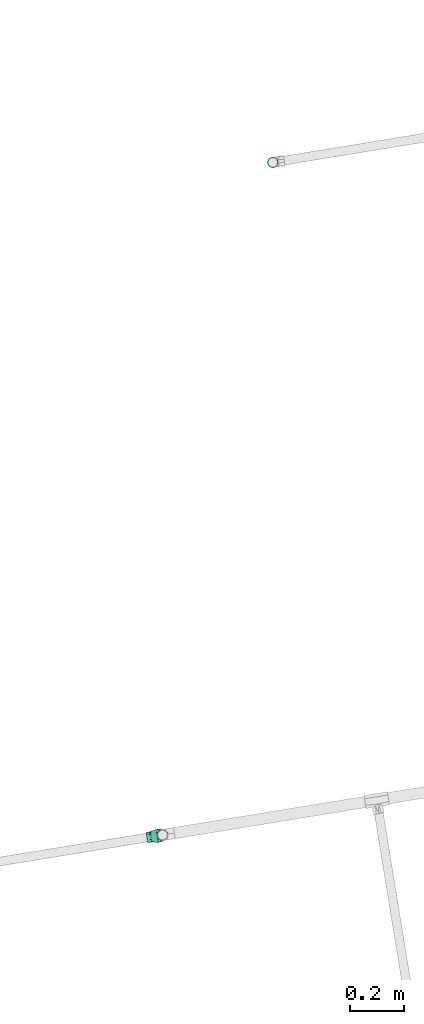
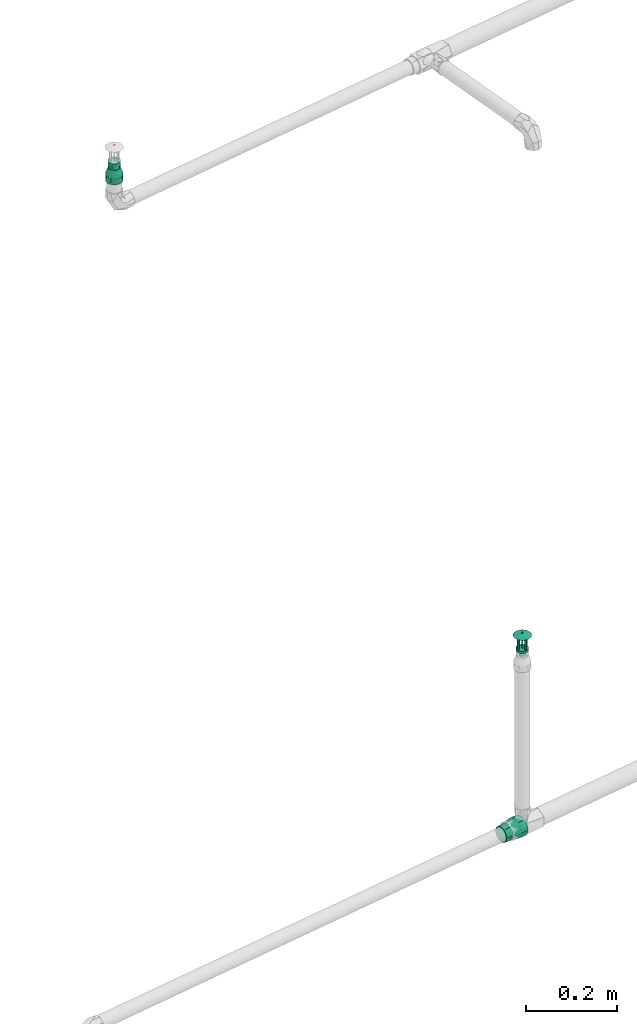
# One storey, part 34 of 46: 2 flow fittings, 1 flow terminal.
"""IFC2X3 building model written with IfcOpenShell, lengths in millimetres."""

from ifc_helpers import new_model, entity, si_unit, converted_unit, derived_unit, direction, frame, origin, origin_with_axes, place, context, subcontext, project, spatial, faceted_brep, source, transform, mapped, material, type_object, element, save


model = new_model("IFC2X3")

# Units and contexts
model_context = context("Model", 3, precision=0.01, world=origin(), true_north=direction((6.12323399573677e-17, 1.0)))
plan_context = context("Plan", 3, precision=1e-05, world=origin_with_axes())
body_context = subcontext(model_context, "Body", "Model", "MODEL_VIEW")
ifc_project = project(units=[converted_unit("PLANEANGLEUNIT", "DEGREE", entity("IfcPositiveLengthMeasure", 0.0174532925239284), si_unit("PLANEANGLEUNIT", "RADIAN"), dimensions=[0, 0, 0, 0, 0, 0, 0]), si_unit("AREAUNIT", "SQUARE_METRE"), si_unit("LENGTHUNIT", "METRE", prefix="MILLI"), si_unit("MASSUNIT", "GRAM", prefix="KILO"), si_unit("POWERUNIT", "WATT"), si_unit("PRESSUREUNIT", "PASCAL", prefix="KILO"), si_unit("FORCEUNIT", "NEWTON", prefix="KILO"), si_unit("ELECTRICVOLTAGEUNIT", "VOLT"), si_unit("ELECTRICCURRENTUNIT", "AMPERE"), si_unit("THERMODYNAMICTEMPERATUREUNIT", "DEGREE_CELSIUS"), si_unit("TIMEUNIT", "SECOND"), si_unit("VOLUMEUNIT", "CUBIC_METRE"), derived_unit("LINEARVELOCITYUNIT", [(si_unit("LENGTHUNIT", "METRE"), 1), (si_unit("TIMEUNIT", "SECOND"), -1)]), derived_unit("VOLUMETRICFLOWRATEUNIT", [(si_unit("VOLUMEUNIT", "CUBIC_METRE"), 1), (si_unit("TIMEUNIT", "SECOND"), -1)]), derived_unit("THERMALTRANSMITTANCEUNIT", [(si_unit("POWERUNIT", "WATT"), 1), (si_unit("THERMODYNAMICTEMPERATUREUNIT", "KELVIN"), -1), (si_unit("AREAUNIT", "SQUARE_METRE"), -1)]), derived_unit("SOUNDPRESSUREUNIT", [(si_unit("PRESSUREUNIT", "PASCAL"), 1)])], contexts=[model_context, plan_context])

# Site, building, storey
site_placement = place(None, frame((-3.09682673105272e-06, 1.93776733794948e-05, 0.0), z_axis=(0.0, 0.0, 1.0), x_axis=(-0.160806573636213, 0.986985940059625, 0.0)))
site = spatial("IfcSite", under=ifc_project, at=site_placement, Name="Default", CompositionType="ELEMENT")
building_placement = place(site_placement, frame((0.0, 0.0, 0.0), z_axis=(0.0, 0.0, 1.0), x_axis=(1.0, -2.77555756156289e-17, 0.0)))
building = spatial("IfcBuilding", under=site, at=building_placement, Name="Bygning (endres i Project Information)", CompositionType="ELEMENT")
storey_placement = place(building_placement, frame((0.0, 0.0, 51360.0000000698), z_axis=(0.0, 0.0, 1.0), x_axis=(1.0, -2.77555756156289e-17, 0.0)))
storey = spatial("IfcBuildingStorey", under=building, at=storey_placement, Name="H01-Nivå D+0,36", CompositionType="ELEMENT", Elevation=51360.0000000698)

# Flow fittings
ifc_material = material(Name="3320.001")
pipe_fitting_type_1 = type_object("IfcPipeFittingType", Name="RS_53_PIF_UN_Reducing-Socket-EN10241_MC_gen:RS_53_PIF_UN_Reducing-Socket-EN10241_MC_gen", PredefinedType="NOTDEFINED", material=ifc_material)
shared_shape_1 = source(origin(), body_context, "Body", "Brep", [
    faceted_brep([(0.0, 3.49405710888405, 13.0399986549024), (0.0, 6.75000000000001, 11.6913429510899), (0.0, 9.5459415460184, 9.54594154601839), (0.0, 11.6913429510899, 6.74999999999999), (0.0, 13.0399986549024, 3.49405710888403), (0.0, 13.5, 0.0), (0.0, 13.0399986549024, -3.49405710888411), (0.0, 11.6913429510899, -6.75000000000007), (0.0, 9.54594154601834, -9.54594154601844), (0.0, 6.74999999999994, -11.69134295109), (0.0, 3.49405710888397, -13.0399986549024), (0.0, 0.0, -13.5), (0.0, -3.49405710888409, -13.0399986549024), (0.0, -6.75000000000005, -11.6913429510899), (0.0, -9.54594154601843, -9.54594154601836), (0.0, -11.6913429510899, -6.74999999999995), (0.0, -13.0399986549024, -3.49405710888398), (0.0, -13.5, 0.0), (0.0, -13.0399986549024, 3.49405710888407), (0.0, -11.6913429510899, 6.75000000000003), (0.0, -9.54594154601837, 9.54594154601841), (0.0, -6.74999999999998, 11.6913429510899), (0.0, -3.49405710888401, 13.0399986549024), (0.0, 0.0, 13.5), (17.0, -4.54589529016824, -12.4935366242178), (17.0, -10.3411162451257, -8.67820919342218), (17.0, -11.5134189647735, -6.64791735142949), (17.0, -12.6857216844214, -4.61762550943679), (17.0, -6.74902240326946, -11.6919073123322), (17.0, -8.54506932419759, -10.1850582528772), (17.0, -13.0928608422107, -2.30881275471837), (17.0, -13.5, 0.0), (17.0, -2.34276817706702, -13.2951659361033), (17.0, 2.34610313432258, -13.2945778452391), (17.0, 0.00166747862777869, -13.2948718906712), (17.0, 8.54762393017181, -10.1829144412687), (17.0, 4.5490290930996, -12.4923959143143), (17.0, 6.75195505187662, -11.6902139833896), (17.0, 12.6868795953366, -4.61444320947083), (17.0, 11.5150862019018, -6.6450290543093), (17.0, 10.343292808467, -8.67561489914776), (17.0, 13.5, 0.0), (17.0, 10.3432928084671, 8.67561489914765), (17.0, 11.5150862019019, 6.64502905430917), (17.0, 12.6868795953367, 4.61444320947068), (17.0, 6.75195505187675, 11.6902139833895), (17.0, 8.54762393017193, 10.1829144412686), (17.0, 2.34610313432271, 13.2945778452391), (17.0, 4.54902909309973, 12.4923959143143), (17.0, -2.3427681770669, 13.2951659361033), (17.0, 0.00166747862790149, 13.2948718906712), (17.0, -12.6857216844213, 4.61762550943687), (17.0, -8.5450693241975, 10.1850582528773), (17.0, -13.0928608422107, 2.30881275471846), (17.0, -11.5134189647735, 6.64791735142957), (17.0, -10.3411162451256, 8.67820919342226), (17.0, -4.54589529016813, 12.4935366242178), (17.0, -6.74902240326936, 11.6919073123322), (34.0, -18.5588149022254, -6.75521201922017), (34.0, 18.5598439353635, -6.75238425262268), (34.0, -9.87413131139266, -17.104503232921), (34.0, -3.42823440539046, -19.4501853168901), (34.0, 0.00148173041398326, -19.4499240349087), (34.0, -6.65118285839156, -18.2773442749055), (34.0, -12.5015396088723, -14.9000353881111), (34.0, -15.1289479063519, -12.6955675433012), (34.0, -16.8438814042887, -9.72538978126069), (34.0, -19.1648351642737, -3.3184704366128), (34.0, 9.87673730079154, -17.1029985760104), (34.0, 15.1308820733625, -12.6932622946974), (34.0, 3.43119786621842, -19.4496627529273), (34.0, 6.65396758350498, -18.2763306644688), (34.0, 16.845363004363, -9.72282327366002), (34.0, 12.503809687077, -14.8981304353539), (34.0, 19.7500000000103, 0.0), (34.0, -19.7499999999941, 0.0), (34.0, -19.1544074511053, 3.37760600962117), (34.0, -6.65118285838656, 18.2773442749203), (34.0, -12.5015396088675, 14.9000353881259), (34.0, 3.43119786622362, 19.4496627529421), (34.0, 6.65396758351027, 18.2763306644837), (34.0, 9.87673730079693, 17.1029985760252), (34.0, 12.5038096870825, 14.8981304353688), (34.0, 15.1308820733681, 12.6932622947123), (34.0, 16.8453630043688, 9.72282327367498), (34.0, 18.5598439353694, 6.75238425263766), (34.0, -16.843881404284, 9.7253897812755), (34.0, -18.5588149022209, 6.75521201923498), (34.0, -3.42823440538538, 19.4501853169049), (34.0, 0.00148173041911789, 19.4499240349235), (34.0, -9.87413131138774, 17.1045032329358), (34.0, -15.1289479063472, 12.695567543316), (51.0, 5.11167614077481, -19.0770350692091), (51.0, 9.87500000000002, -17.1040017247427), (51.0, 13.9653589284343, -13.9653589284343), (51.0, 17.1040017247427, -9.87499999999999), (51.0, 19.0770350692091, -5.11167614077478), (51.0, 19.75, 0.0), (51.0, 19.0770350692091, 5.1116761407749), (51.0, 17.1040017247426, 9.8750000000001), (51.0, 13.9653589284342, 13.9653589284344), (51.0, 9.87499999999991, 17.1040017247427), (51.0, 5.11167614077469, 19.0770350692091), (51.0, 0.0, 19.75), (51.0, -5.11167614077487, 19.0770350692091), (51.0, -9.87500000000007, 17.1040017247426), (51.0, -13.9653589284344, 13.9653589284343), (51.0, -17.1040017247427, 9.87499999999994), (51.0, -19.0770350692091, 5.11167614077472), (51.0, -19.75, 0.0), (51.0, -19.0770350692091, -5.11167614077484), (51.0, -17.1040017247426, -9.87500000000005), (51.0, -13.9653589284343, -13.9653589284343), (51.0, -9.87499999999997, -17.1040017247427), (51.0, -5.11167614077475, -19.0770350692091), (51.0, 0.0, -19.75)], [[[0, 1, 2, 3, 4, 5, 6, 7, 8, 9, 10, 11, 12, 13, 14, 15, 16, 17, 18, 19, 20, 21, 22, 23]], [[24, 13, 12]], [[15, 14, 25]], [[15, 25, 26, 27]], [[28, 29, 13]], [[16, 27, 30]], [[30, 31, 17]], [[30, 17, 16]], [[12, 32, 24]], [[25, 14, 29]], [[11, 33, 34, 32]], [[35, 9, 8]], [[13, 29, 14]], [[24, 28, 13]], [[33, 11, 10]], [[36, 9, 37]], [[7, 38, 39, 40]], [[9, 36, 10]], [[7, 6, 38]], [[8, 40, 35]], [[33, 10, 36]], [[11, 32, 12]], [[7, 40, 8]], [[6, 41, 38]], [[15, 27, 16]], [[6, 5, 41]], [[35, 37, 9]], [[41, 5, 4]], [[3, 2, 42]], [[3, 42, 43, 44]], [[45, 46, 1]], [[44, 41, 4]], [[0, 47, 48]], [[42, 2, 46]], [[23, 49, 50, 47]], [[1, 46, 2]], [[48, 1, 0]], [[48, 45, 1]], [[3, 44, 4]], [[22, 49, 23]], [[19, 18, 51]], [[52, 21, 20]], [[17, 53, 18]], [[19, 51, 54, 55]], [[17, 31, 53]], [[56, 49, 22]], [[21, 57, 56]], [[19, 55, 20]], [[21, 56, 22]], [[20, 55, 52]], [[23, 47, 0]], [[53, 51, 18]], [[52, 57, 21]], [[58, 30, 27]], [[38, 59, 39]], [[28, 60, 29]], [[61, 32, 62]], [[63, 60, 28]], [[64, 65, 25]], [[64, 25, 29]], [[66, 58, 27]], [[66, 27, 26]], [[67, 31, 30]], [[26, 65, 66]], [[62, 32, 34]], [[25, 65, 26]], [[37, 68, 36]], [[29, 60, 64]], [[40, 69, 35]], [[34, 33, 70]], [[71, 70, 33]], [[71, 33, 36]], [[34, 70, 62]], [[72, 69, 40]], [[73, 68, 37]], [[74, 38, 41]], [[31, 67, 75]], [[39, 59, 72]], [[32, 61, 24]], [[35, 69, 73]], [[74, 59, 38]], [[58, 67, 30]], [[63, 28, 24]], [[24, 61, 63]], [[73, 37, 35]], [[36, 68, 71]], [[72, 40, 39]], [[41, 44, 74]], [[31, 76, 53]], [[57, 77, 56]], [[55, 78, 52]], [[47, 79, 80]], [[45, 81, 82]], [[46, 83, 42]], [[42, 83, 84]], [[43, 85, 44]], [[74, 44, 85]], [[46, 82, 83]], [[84, 85, 43]], [[51, 86, 54]], [[87, 51, 53]], [[81, 48, 80]], [[48, 81, 45]], [[49, 88, 89]], [[77, 57, 90]], [[56, 88, 49]], [[50, 79, 47]], [[86, 51, 87]], [[78, 55, 91]], [[75, 76, 31]], [[47, 80, 48]], [[77, 88, 56]], [[49, 89, 50]], [[86, 91, 54]], [[53, 76, 87]], [[45, 82, 46]], [[90, 52, 78]], [[42, 84, 43]], [[52, 90, 57]], [[50, 89, 79]], [[54, 91, 55]], [[92, 93, 94, 95, 96, 97, 98, 99, 100, 101, 102, 103, 104, 105, 106, 107, 108, 109, 110, 111, 112, 113, 114, 115]], [[74, 97, 96]], [[95, 94, 69]], [[95, 69, 72, 59]], [[68, 73, 93]], [[59, 74, 96]], [[92, 70, 71]], [[69, 94, 73]], [[115, 61, 62, 70]], [[93, 73, 94]], [[61, 115, 114]], [[111, 65, 112]], [[63, 113, 60]], [[95, 59, 96]], [[71, 68, 93]], [[64, 60, 113]], [[109, 75, 67]], [[113, 63, 114]], [[112, 65, 64]], [[61, 114, 63]], [[71, 93, 92]], [[109, 67, 110]], [[58, 111, 110]], [[110, 67, 58]], [[64, 113, 112]], [[66, 65, 111, 58]], [[115, 70, 92]], [[77, 105, 104]], [[107, 106, 91]], [[107, 91, 86, 87]], [[90, 78, 105]], [[108, 87, 76]], [[76, 109, 108]], [[107, 87, 108]], [[104, 88, 77]], [[91, 106, 78]], [[103, 79, 89, 88]], [[77, 90, 105]], [[105, 78, 106]], [[76, 75, 109]], [[79, 103, 102]], [[80, 101, 81]], [[99, 85, 84, 83]], [[101, 80, 102]], [[99, 98, 85]], [[100, 83, 82]], [[79, 102, 80]], [[99, 83, 100]], [[82, 81, 101]], [[98, 74, 85]], [[98, 97, 74]], [[103, 88, 104]], [[82, 101, 100]]]),
])
flow_fitting_1_placement = place(storey_placement, frame((1008686.77221849, -348978.631006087, 3418.99999993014), z_axis=(2.77555756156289e-17, 1.0, 0.0), x_axis=(0.0, 0.0, -1.0)))
element("IfcFlowFitting", 1, at=flow_fitting_1_placement, inside=storey, type_object=pipe_fitting_type_1, material=ifc_material, Name="RS_53_PIF_UN_Reducing-Socket-EN10241_MC_gen:RS_53_PIF_UN_Reducing-Socket-EN10241_MC_gen", ObjectType="RS_53_PIF_UN_Reducing-Socket-EN10241_MC_gen:RS_53_PIF_UN_Reducing-Socket-EN10241_MC_gen", context=body_context, shape_type="MappedRepresentation", body=[
    mapped(shared_shape_1, transform((0.0, 0.0, 0.0), scale=1.0)),
])
pipe_fitting_type_2 = type_object("IfcPipeFittingType", Name="RS_53_PIF_UN_Reducing-Socket-EN10241_MC_gen:RS_53_PIF_UN_Reducing-Socket-EN10241_MC_gen", PredefinedType="NOTDEFINED", material=ifc_material)
shared_shape_2 = source(origin(), body_context, "Body", "Brep", [
    faceted_brep([(0.0, -12.25, 21.2176223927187), (0.0, -6.34106660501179, 23.6651827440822), (0.0, 0.0, 24.5), (0.0, 6.34106660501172, 23.6651827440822), (0.0, 12.25, 21.2176223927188), (0.0, 17.3241161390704, 17.3241161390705), (0.0, 21.2176223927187, 12.2500000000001), (0.0, 23.6651827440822, 6.34106660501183), (0.0, 24.5, 0.0), (0.0, 23.6651827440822, -6.34106660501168), (0.0, 21.2176223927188, -12.2499999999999), (0.0, 17.3241161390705, -17.3241161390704), (0.0, 12.2500000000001, -21.2176223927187), (0.0, 6.34106660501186, -23.6651827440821), (0.0, 0.0, -24.5), (0.0, -6.34106660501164, -23.6651827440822), (0.0, -12.2499999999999, -21.2176223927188), (0.0, -17.3241161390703, -17.3241161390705), (0.0, -21.2176223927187, -12.2500000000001), (0.0, -23.6651827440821, -6.34106660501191), (0.0, -24.5, 0.0), (0.0, -23.6651827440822, 6.34106660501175), (0.0, -21.2176223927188, 12.25), (0.0, -17.3241161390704, 17.3241161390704), (18.6666666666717, 8.25137606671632, -22.6729794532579), (18.6666666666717, 18.7677686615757, -15.7486780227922), (18.6666666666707, 20.8950763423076, -12.0642027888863), (18.6666666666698, 23.0223840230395, -8.37972755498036), (18.6666666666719, 15.5085607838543, -18.4833370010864), (18.6666666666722, 12.2493529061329, -21.2179959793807), (18.6666666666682, 23.7611920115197, -4.18986377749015), (18.6666666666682, 23.7125607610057, -4.46565710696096), (18.6666666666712, 4.25339922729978, -24.1279629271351), (18.6666666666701, -0.00110376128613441, -24.1277682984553), (18.6666666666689, -4.25560674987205, -24.1275736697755), (18.6666666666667, 24.5, 0.0), (18.6666666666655, -12.2512941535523, -21.2168751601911), (18.6666666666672, -8.25345045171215, -22.6722244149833), (18.6666666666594, -20.8961800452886, -12.062290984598), (18.6666666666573, -23.0231506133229, -8.37762113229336), (18.6666666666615, -18.7692094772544, -15.7469608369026), (18.6666666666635, -15.5102518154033, -18.4819179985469), (18.6666666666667, -24.5, 0.0), (18.6666666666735, -18.7692094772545, 15.7469608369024), (18.666666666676, -20.8961800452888, 12.0622909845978), (18.6666666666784, -23.023150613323, 8.3776211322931), (18.6666666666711, -15.5102518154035, 18.4819179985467), (18.6666666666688, -12.2512941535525, 21.216875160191), (18.6666666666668, -8.25345045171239, 22.6722244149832), (18.6666666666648, -4.25560674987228, 24.1275736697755), (18.6666666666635, -0.00110376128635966, 24.1277682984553), (18.6666666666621, 4.25339922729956, 24.1279629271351), (18.6666666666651, 23.7611920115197, 4.1898637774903), (18.666666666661, 12.2493529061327, 21.2179959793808), (18.6666666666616, 8.25137606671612, 22.672979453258), (18.6666666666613, 15.5085607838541, 18.4833370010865), (18.6666666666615, 18.7677686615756, 15.7486780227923), (18.6666666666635, 23.0223840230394, 8.37972755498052), (18.6666666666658, 23.7125607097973, 4.46565739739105), (18.6666666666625, 20.8950763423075, 12.0642027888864), (37.3333333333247, -18.5595959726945, -6.75306577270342), (37.3333333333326, -19.750000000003, 0.0), (37.3333333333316, -9.87626627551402, -17.1032705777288), (37.3333333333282, -15.1304742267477, -12.6937484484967), (37.3333333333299, -12.5033702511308, -14.8985095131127), (37.3333333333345, -3.43075149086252, -19.4497414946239), (37.333333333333, -6.65350888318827, -18.2765060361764), (37.3333333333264, -16.8450350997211, -9.72340711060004), (37.3333333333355, -0.00107998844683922, -19.4499319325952), (37.3333333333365, 3.42859151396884, -19.4501223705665), (37.3333333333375, 9.87436684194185, -17.1043672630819), (37.333333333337, 6.65147917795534, -18.2772448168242), (37.3333333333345, 19.1544229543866, -3.37756341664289), (37.3333333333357, 18.558845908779, -6.75512683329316), (37.3333333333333, 19.7499999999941, 0.0), (37.3333333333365, 16.8439551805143, -9.72527774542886), (37.3333333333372, 15.1290644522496, -12.6954286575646), (37.3333333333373, 12.5017156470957, -14.8998979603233), (37.3333333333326, 19.1544229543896, 3.37756341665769), (37.3333333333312, 18.5588459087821, 6.755126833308), (37.3333333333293, 15.1290644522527, 12.6954286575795), (37.3333333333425, -16.8450350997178, 9.72340711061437), (37.3333333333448, -18.559595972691, 6.75306577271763), (37.3333333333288, 9.87436684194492, 17.104367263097), (37.3333333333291, 12.5017156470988, 14.8998979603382), (37.3333333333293, 6.65147917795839, 18.2772448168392), (37.3333333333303, 16.8439551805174, 9.72527774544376), (37.3333333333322, -3.43075149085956, 19.4497414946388), (37.333333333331, -0.00107998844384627, 19.4499319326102), (37.3333333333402, -15.1304742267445, 12.6937484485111), (37.333333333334, -6.65350888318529, 18.2765060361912), (37.3333333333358, -9.87626627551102, 17.1032705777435), (37.333333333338, -12.5033702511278, 14.8985095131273), (37.3333333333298, 3.42859151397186, 19.4501223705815), (56.0, 0.0, -19.75), (56.0, 5.11167614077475, -19.0770350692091), (56.0, 9.87499999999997, -17.1040017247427), (56.0, 13.9653589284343, -13.9653589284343), (56.0, 17.1040017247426, -9.87500000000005), (56.0, 19.0770350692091, -5.11167614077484), (56.0, 19.75, 0.0), (56.0, 19.0770350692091, 5.11167614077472), (56.0, 17.1040017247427, 9.87499999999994), (56.0, 13.9653589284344, 13.9653589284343), (56.0, 9.87500000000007, 17.1040017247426), (56.0, 5.11167614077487, 19.0770350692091), (56.0, 0.0, 19.75), (56.0, -5.11167614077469, 19.0770350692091), (56.0, -9.87499999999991, 17.1040017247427), (56.0, -13.9653589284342, 13.9653589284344), (56.0, -17.1040017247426, 9.8750000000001), (56.0, -19.0770350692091, 5.1116761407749), (56.0, -19.75, 0.0), (56.0, -19.0770350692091, -5.11167614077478), (56.0, -17.1040017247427, -9.87499999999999), (56.0, -13.9653589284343, -13.9653589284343), (56.0, -9.87500000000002, -17.1040017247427), (56.0, -5.11167614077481, -19.0770350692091)], [[[0, 1, 2, 3, 4, 5, 6, 7, 8, 9, 10, 11, 12, 13, 14, 15, 16, 17, 18, 19, 20, 21, 22, 23]], [[13, 12, 24]], [[25, 11, 10]], [[26, 25, 10, 27]], [[12, 28, 29]], [[9, 30, 31, 27]], [[9, 8, 30]], [[9, 27, 10]], [[24, 32, 13]], [[28, 11, 25]], [[33, 34, 14, 32]], [[12, 29, 24]], [[11, 28, 12]], [[8, 35, 30]], [[15, 14, 34]], [[36, 16, 37]], [[38, 39, 18, 40]], [[15, 37, 16]], [[39, 19, 18]], [[41, 40, 17]], [[37, 15, 34]], [[17, 40, 18]], [[16, 36, 41]], [[39, 42, 19]], [[42, 20, 19]], [[13, 32, 14]], [[17, 16, 41]], [[21, 20, 42]], [[43, 23, 22]], [[44, 43, 22, 45]], [[0, 46, 47]], [[21, 42, 45]], [[48, 49, 1]], [[46, 23, 43]], [[50, 51, 2, 49]], [[23, 46, 0]], [[3, 2, 51]], [[1, 49, 2]], [[7, 52, 8]], [[53, 4, 54]], [[1, 0, 48]], [[5, 4, 55]], [[8, 52, 35]], [[21, 45, 22]], [[3, 54, 4]], [[55, 56, 5]], [[54, 3, 51]], [[0, 47, 48]], [[5, 56, 6]], [[7, 6, 57]], [[7, 57, 58, 52]], [[4, 53, 55]], [[6, 56, 59, 57]], [[60, 61, 42]], [[36, 62, 41]], [[63, 40, 64]], [[63, 38, 40]], [[65, 37, 34]], [[66, 37, 65]], [[60, 42, 39]], [[67, 38, 63]], [[64, 40, 41]], [[66, 36, 37]], [[64, 41, 62]], [[38, 67, 39]], [[68, 33, 69]], [[33, 32, 69]], [[29, 70, 24]], [[71, 69, 32]], [[72, 31, 30, 35]], [[26, 27, 73]], [[35, 74, 72]], [[73, 75, 26]], [[28, 25, 76]], [[76, 77, 28]], [[71, 24, 70]], [[71, 32, 24]], [[29, 77, 70]], [[25, 75, 76]], [[28, 77, 29]], [[26, 75, 25]], [[27, 31, 73]], [[72, 73, 31]], [[62, 36, 66]], [[34, 33, 68]], [[65, 34, 68]], [[60, 39, 67]], [[78, 58, 79]], [[56, 55, 80]], [[81, 45, 82]], [[57, 59, 79]], [[53, 54, 83]], [[84, 80, 55]], [[78, 35, 52, 58]], [[58, 57, 79]], [[55, 53, 84]], [[54, 51, 85]], [[74, 35, 78]], [[59, 56, 86]], [[53, 83, 84]], [[87, 88, 49]], [[87, 49, 48]], [[86, 79, 59]], [[85, 83, 54]], [[50, 49, 88]], [[42, 61, 82]], [[89, 43, 44]], [[48, 47, 90]], [[91, 47, 46]], [[56, 80, 86]], [[44, 45, 81]], [[90, 87, 48]], [[46, 43, 92]], [[90, 47, 91]], [[93, 51, 50]], [[82, 45, 42]], [[51, 93, 85]], [[81, 89, 44]], [[88, 93, 50]], [[92, 91, 46]], [[92, 43, 89]], [[94, 95, 96, 97, 98, 99, 100, 101, 102, 103, 104, 105, 106, 107, 108, 109, 110, 111, 112, 113, 114, 115, 116, 117]], [[113, 112, 61]], [[63, 115, 114]], [[67, 63, 114, 60]], [[116, 64, 62]], [[113, 61, 60]], [[66, 65, 117]], [[64, 115, 63]], [[68, 69, 94, 65]], [[115, 64, 116]], [[69, 95, 94]], [[96, 70, 77]], [[117, 116, 66]], [[71, 70, 96]], [[73, 99, 98]], [[95, 71, 96]], [[117, 65, 94]], [[113, 60, 114]], [[74, 100, 72]], [[95, 69, 71]], [[97, 76, 98]], [[77, 76, 97]], [[97, 96, 77]], [[75, 73, 98, 76]], [[99, 72, 100]], [[116, 62, 66]], [[99, 73, 72]], [[105, 104, 85]], [[80, 103, 102]], [[86, 80, 102, 79]], [[104, 84, 83]], [[78, 79, 101]], [[101, 100, 78]], [[101, 79, 102]], [[85, 93, 105]], [[84, 103, 80]], [[88, 87, 106, 93]], [[104, 83, 85]], [[103, 84, 104]], [[100, 74, 78]], [[107, 106, 87]], [[91, 108, 90]], [[81, 82, 110, 89]], [[107, 90, 108]], [[82, 111, 110]], [[92, 89, 109]], [[90, 107, 87]], [[109, 89, 110]], [[108, 91, 92]], [[82, 61, 111]], [[61, 112, 111]], [[105, 93, 106]], [[109, 108, 92]]]),
])
flow_fitting_2_placement = place(storey_placement, frame((1006288.36764382, -348169.776819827, 3299.95080998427), z_axis=(3.52015190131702e-23, 1.26826838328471e-06, 0.999999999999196), x_axis=(2.77555756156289e-17, 0.999999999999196, -1.26826838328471e-06)))
element("IfcFlowFitting", 2, at=flow_fitting_2_placement, inside=storey, type_object=pipe_fitting_type_2, material=ifc_material, Name="RS_53_PIF_UN_Reducing-Socket-EN10241_MC_gen:RS_53_PIF_UN_Reducing-Socket-EN10241_MC_gen", ObjectType="RS_53_PIF_UN_Reducing-Socket-EN10241_MC_gen:RS_53_PIF_UN_Reducing-Socket-EN10241_MC_gen", context=body_context, shape_type="MappedRepresentation", body=[
    mapped(shared_shape_2, transform((0.0, 0.0, 0.0), scale=1.0)),
])

# Flow terminal
fire_suppression_terminal_type = type_object("IfcFireSuppressionTerminalType", Name="SU-15-K80-68DGR-STD:SU-15-K80-68DGR-STD", PredefinedType="NOTDEFINED", material=ifc_material)
shared_shape_3 = source(origin(), body_context, "Body", "Brep", [
    faceted_brep([(-2.5, 0.0, 62.0), (0.0, -2.5, 62.0), (2.5, 0.0, 62.0), (0.0, 2.5, 62.0), (0.0, 2.5, 59.0), (2.5, 0.0, 59.0), (0.0, -2.5, 59.0), (-2.5, 0.0, 59.0)], [[[0, 1, 2, 3]], [[4, 5, 6, 7]], [[3, 4, 7, 0]], [[2, 5, 4, 3]], [[1, 6, 5, 2]], [[0, 7, 6, 1]]]),
    faceted_brep([(1.0, 13.5, 47.0), (1.0, -13.5, 47.0), (1.0, -13.5, 19.0), (1.0, -8.5, 19.0), (1.0, -8.5, 42.0), (1.0, 8.5, 42.0), (1.0, 8.5, 19.0), (1.0, 13.5, 19.0), (-1.0, 13.5, 47.0), (-1.0, 13.5, 19.0), (-1.0, 8.5, 19.0), (-1.0, 8.5, 42.0), (-1.0, -8.5, 42.0), (-1.0, -8.5, 19.0), (-1.0, -13.5, 19.0), (-1.0, -13.5, 47.0)], [[[0, 1, 2, 3, 4, 5, 6, 7]], [[8, 9, 10, 11, 12, 13, 14, 15]], [[7, 9, 8, 0]], [[6, 10, 9, 7]], [[5, 11, 10, 6]], [[4, 12, 11, 5]], [[3, 13, 12, 4]], [[2, 14, 13, 3]], [[1, 15, 14, 2]], [[0, 8, 15, 1]]]),
    faceted_brep([(-13.5, -1.0, 47.0), (-13.5, -1.0, 19.0), (-8.5, -1.0, 19.0), (-8.5, -1.0, 42.0), (8.5, -1.0, 42.0), (8.5, -1.0, 19.0), (13.5, -1.0, 19.0), (13.5, -1.0, 47.0), (-13.5, 1.0, 47.0), (13.5, 1.0, 47.0), (13.5, 1.0, 19.0), (8.5, 1.0, 19.0), (8.5, 1.0, 42.0), (-8.5, 1.0, 42.0), (-8.5, 1.0, 19.0), (-13.5, 1.0, 19.0)], [[[0, 1, 2, 3, 4, 5, 6, 7]], [[8, 9, 10, 11, 12, 13, 14, 15]], [[7, 9, 8, 0]], [[6, 10, 9, 7]], [[5, 11, 10, 6]], [[4, 12, 11, 5]], [[3, 13, 12, 4]], [[2, 14, 13, 3]], [[1, 15, 14, 2]], [[0, 8, 15, 1]]]),
    faceted_brep([(2.5, 0.0, 59.0), (0.0, 2.5, 59.0), (-2.5, 0.0, 59.0), (0.0, -2.5, 59.0), (-6.48935688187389, -19.9721868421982, 53.0), (-16.9893568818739, -12.3434902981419, 53.0), (-21.0, 0.0, 53.0), (-16.9893568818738, 12.343490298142, 53.0), (-6.48935688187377, 19.9721868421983, 53.0), (6.48935688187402, 19.9721868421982, 53.0), (16.989356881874, 12.3434902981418, 53.0), (21.0, 0.0, 53.0), (16.9893568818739, -12.3434902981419, 53.0), (6.4893568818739, -19.9721868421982, 53.0)], [[[0, 1, 2, 3]], [[4, 5, 6, 7, 8, 9, 10, 11, 12, 13]], [[10, 0, 11]], [[10, 9, 1]], [[1, 0, 10]], [[7, 2, 1]], [[8, 7, 1]], [[6, 2, 7]], [[9, 8, 1]], [[5, 2, 6]], [[5, 4, 3]], [[3, 2, 5]], [[12, 0, 3]], [[13, 12, 3]], [[11, 0, 12]], [[4, 13, 3]]]),
    faceted_brep([(-2.5, 0.0, 53.0), (0.0, -2.5, 53.0), (2.5, 0.0, 53.0), (0.0, 2.5, 53.0), (0.0, 2.5, 19.0), (2.5, 0.0, 19.0), (0.0, -2.5, 19.0), (-2.5, 0.0, 19.0)], [[[0, 1, 2, 3]], [[4, 5, 6, 7]], [[3, 4, 7, 0]], [[2, 5, 4, 3]], [[1, 6, 5, 2]], [[0, 7, 6, 1]]]),
    faceted_brep([(7.0, 12.1243556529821, 19.0), (3.62346663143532, 13.5229615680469, 19.0), (0.0, 14.0, 19.0), (-3.62346663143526, 13.522961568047, 19.0), (-7.0, 12.1243556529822, 19.0), (-9.89949493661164, 9.89949493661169, 19.0), (-12.1243556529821, 7.0, 19.0), (-13.5229615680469, 3.62346663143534, 19.0), (-14.0, 0.0, 19.0), (-13.5229615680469, -3.62346663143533, 19.0), (-12.1243556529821, -7.0, 19.0), (-9.89949493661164, -9.89949493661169, 19.0), (-7.0, -12.1243556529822, 19.0), (-3.62346663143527, -13.522961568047, 19.0), (0.0, -14.0, 19.0), (3.62346663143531, -13.522961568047, 19.0), (7.0, -12.1243556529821, 19.0), (9.89949493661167, -9.89949493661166, 19.0), (12.1243556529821, -7.0, 19.0), (13.522961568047, -3.62346663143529, 19.0), (14.0, 0.0, 19.0), (13.522961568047, 3.62346663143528, 19.0), (12.1243556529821, 7.0, 19.0), (9.89949493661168, 9.89949493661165, 19.0), (9.89949493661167, -9.89949493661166, 13.0), (7.0, -12.1243556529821, 13.0), (3.62346663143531, -13.522961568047, 13.0), (0.0, -14.0, 13.0), (-3.62346663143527, -13.522961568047, 13.0), (-7.0, -12.1243556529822, 13.0), (-9.89949493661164, -9.89949493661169, 13.0), (-12.1243556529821, -7.0, 13.0), (-13.5229615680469, -3.62346663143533, 13.0), (-14.0, 0.0, 13.0), (-13.5229615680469, 3.62346663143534, 13.0), (-12.1243556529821, 7.0, 13.0), (-9.89949493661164, 9.89949493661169, 13.0), (-7.0, 12.1243556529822, 13.0), (-3.62346663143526, 13.522961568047, 13.0), (0.0, 14.0, 13.0), (3.62346663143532, 13.5229615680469, 13.0), (7.0, 12.1243556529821, 13.0), (9.89949493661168, 9.89949493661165, 13.0), (12.1243556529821, 7.0, 13.0), (13.522961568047, 3.62346663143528, 13.0), (14.0, 0.0, 13.0), (13.522961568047, -3.62346663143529, 13.0), (12.1243556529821, -7.0, 13.0)], [[[0, 1, 2, 3, 4, 5, 6, 7, 8, 9, 10, 11, 12, 13, 14, 15, 16, 17, 18, 19, 20, 21, 22, 23]], [[24, 25, 26, 27, 28, 29, 30, 31, 32, 33, 34, 35, 36, 37, 38, 39, 40, 41, 42, 43, 44, 45, 46, 47]], [[33, 8, 7, 34]], [[34, 7, 6, 35]], [[37, 36, 5, 4]], [[5, 36, 35, 6]], [[38, 37, 4, 3]], [[38, 3, 2, 39]], [[39, 2, 1, 40]], [[40, 1, 0, 41]], [[43, 42, 23, 22]], [[23, 42, 41, 0]], [[44, 43, 22, 21]], [[44, 21, 20, 45]], [[45, 20, 19, 46]], [[46, 19, 18, 47]], [[25, 24, 17, 16]], [[17, 24, 47, 18]], [[26, 25, 16, 15]], [[26, 15, 14, 27]], [[27, 14, 13, 28]], [[28, 13, 12, 29]], [[31, 30, 11, 10]], [[11, 30, 29, 12]], [[32, 31, 10, 9]], [[32, 9, 8, 33]]]),
    faceted_brep([(3.75000000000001, 6.49519052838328, 13.0), (1.94114283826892, 7.24444369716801, 13.0), (0.0, 7.5, 13.0), (-1.94114283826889, 7.24444369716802, 13.0), (-3.74999999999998, 6.4951905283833, 13.0), (-5.30330085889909, 5.30330085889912, 13.0), (-6.49519052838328, 3.75000000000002, 13.0), (-7.244443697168, 1.94114283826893, 13.0), (-7.5, 0.0, 13.0), (-7.24444369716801, -1.94114283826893, 13.0), (-6.49519052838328, -3.75000000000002, 13.0), (-5.3033008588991, -5.30330085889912, 13.0), (-3.74999999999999, -6.4951905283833, 13.0), (-1.94114283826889, -7.24444369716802, 13.0), (0.0, -7.5, 13.0), (1.94114283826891, -7.24444369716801, 13.0), (3.75000000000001, -6.49519052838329, 13.0), (5.30330085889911, -5.3033008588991, 13.0), (6.49519052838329, -3.75, 13.0), (7.24444369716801, -1.9411428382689, 13.0), (7.5, 0.0, 13.0), (7.24444369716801, 1.9411428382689, 13.0), (6.49519052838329, 3.75, 13.0), (5.30330085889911, 5.3033008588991, 13.0), (5.30330085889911, -5.3033008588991, 0.0), (3.75000000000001, -6.49519052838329, 0.0), (1.94114283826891, -7.24444369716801, 0.0), (0.0, -7.5, 0.0), (-1.94114283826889, -7.24444369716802, 0.0), (-3.74999999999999, -6.4951905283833, 0.0), (-5.3033008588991, -5.30330085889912, 0.0), (-6.49519052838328, -3.75000000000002, 0.0), (-7.24444369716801, -1.94114283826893, 0.0), (-7.5, 0.0, 0.0), (-7.244443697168, 1.94114283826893, 0.0), (-6.49519052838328, 3.75000000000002, 0.0), (-5.30330085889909, 5.30330085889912, 0.0), (-3.74999999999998, 6.4951905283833, 0.0), (-1.94114283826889, 7.24444369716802, 0.0), (0.0, 7.5, 0.0), (1.94114283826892, 7.24444369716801, 0.0), (3.75000000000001, 6.49519052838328, 0.0), (5.30330085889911, 5.3033008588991, 0.0), (6.49519052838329, 3.75, 0.0), (7.24444369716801, 1.9411428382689, 0.0), (7.5, 0.0, 0.0), (7.24444369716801, -1.9411428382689, 0.0), (6.49519052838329, -3.75, 0.0)], [[[0, 1, 2, 3, 4, 5, 6, 7, 8, 9, 10, 11, 12, 13, 14, 15, 16, 17, 18, 19, 20, 21, 22, 23]], [[24, 25, 26, 27, 28, 29, 30, 31, 32, 33, 34, 35, 36, 37, 38, 39, 40, 41, 42, 43, 44, 45, 46, 47]], [[33, 8, 7, 34]], [[34, 7, 6, 35]], [[37, 36, 5, 4]], [[5, 36, 35, 6]], [[38, 37, 4, 3]], [[38, 3, 2, 39]], [[39, 2, 1, 40]], [[40, 1, 0, 41]], [[43, 42, 23, 22]], [[23, 42, 41, 0]], [[44, 43, 22, 21]], [[44, 21, 20, 45]], [[45, 20, 19, 46]], [[46, 19, 18, 47]], [[25, 24, 17, 16]], [[17, 24, 47, 18]], [[26, 25, 16, 15]], [[26, 15, 14, 27]], [[27, 14, 13, 28]], [[28, 13, 12, 29]], [[31, 30, 11, 10]], [[11, 30, 29, 12]], [[32, 31, 10, 9]], [[32, 9, 8, 33]]]),
])
flow_terminal_placement = place(storey_placement, frame((1006288.36764382, -348173.710240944, 3753.81212530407), z_axis=(0.0, 0.0, 1.0), x_axis=(-1.0, 2.77555756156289e-17, 0.0)))
element("IfcFlowTerminal", 3, at=flow_terminal_placement, inside=storey, type_object=fire_suppression_terminal_type, material=ifc_material, Name="SU-15-K80-68DGR-STD:SU-15-K80-68DGR-STD", ObjectType="SU-15-K80-68DGR-STD:SU-15-K80-68DGR-STD", context=body_context, shape_type="MappedRepresentation", body=[
    mapped(shared_shape_3, transform((0.0, 0.0, 0.0), scale=1.0)),
])

save(model, "model.ifc")
